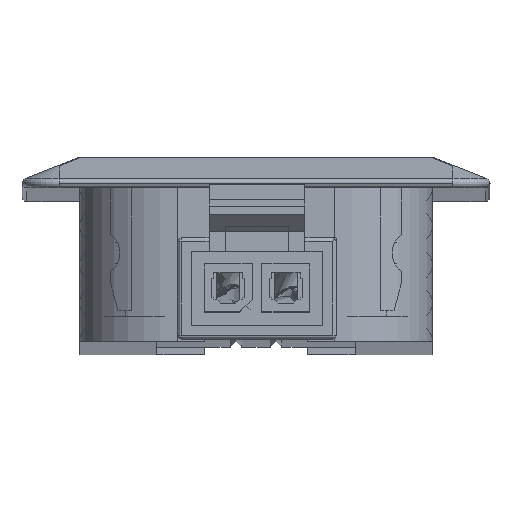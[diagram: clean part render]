
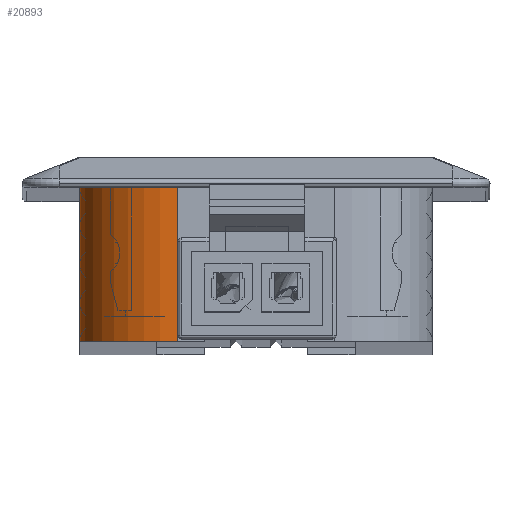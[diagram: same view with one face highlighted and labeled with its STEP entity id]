
A CAD part, top view. The second image highlights one B-rep face of the part: STEP entity #20893.
In plain terms, the highlighted cylindrical face has radius 5.1 mm (diameter 10.2 mm), a partial arc.
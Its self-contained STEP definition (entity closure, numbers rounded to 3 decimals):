
#297 = EDGE_CURVE ( 'NONE', #13143, #15528, #23055, .T. ) ;
#1264 = DIRECTION ( 'NONE',  ( -1., 0., 0. ) ) ;
#1367 = AXIS2_PLACEMENT_3D ( 'NONE', #3164, #7272, #3673 ) ;
#2518 = ORIENTED_EDGE ( 'NONE', *, *, #23146, .F. ) ;
#3164 = CARTESIAN_POINT ( 'NONE',  ( -43.337, 13.459, 400.585 ) ) ;
#3248 = CARTESIAN_POINT ( 'NONE',  ( -48.437, 5.659, 400.585 ) ) ;
#3673 = DIRECTION ( 'NONE',  ( -1., 0., 0. ) ) ;
#3951 = ORIENTED_EDGE ( 'NONE', *, *, #297, .T. ) ;
#4845 = CARTESIAN_POINT ( 'NONE',  ( -43.337, 5.659, 400.585 ) ) ;
#4902 = CYLINDRICAL_SURFACE ( 'NONE', #1367, 5.1 ) ;
#4954 = AXIS2_PLACEMENT_3D ( 'NONE', #20980, #5861, #13261 ) ;
#5321 = LINE ( 'NONE', #13970, #9723 ) ;
#5441 = DIRECTION ( 'NONE',  ( 0., 1., 0. ) ) ;
#5861 = DIRECTION ( 'NONE',  ( 0., 1., 0. ) ) ;
#7272 = DIRECTION ( 'NONE',  ( 0., -1., 0. ) ) ;
#7646 = CIRCLE ( 'NONE', #17061, 5.1 ) ;
#8672 = CARTESIAN_POINT ( 'NONE',  ( -43.337, 5.659, 405.685 ) ) ;
#9723 = VECTOR ( 'NONE', #5441, 1000. ) ;
#10298 = DIRECTION ( 'NONE',  ( 0., -1., 0. ) ) ;
#11292 = ORIENTED_EDGE ( 'NONE', *, *, #20380, .F. ) ;
#13143 = VERTEX_POINT ( 'NONE', #8672 ) ;
#13261 = DIRECTION ( 'NONE',  ( -1., 0., 0. ) ) ;
#13970 = CARTESIAN_POINT ( 'NONE',  ( -48.437, 13.459, 400.585 ) ) ;
#15528 = VERTEX_POINT ( 'NONE', #18689 ) ;
#15578 = VECTOR ( 'NONE', #20437, 1000. ) ;
#16621 = VERTEX_POINT ( 'NONE', #19672 ) ;
#17061 = AXIS2_PLACEMENT_3D ( 'NONE', #4845, #10298, #1264 ) ;
#17586 = FACE_OUTER_BOUND ( 'NONE', #17776, .T. ) ;
#17776 = EDGE_LOOP ( 'NONE', ( #2518, #11292, #3951, #22654 ) ) ;
#18689 = CARTESIAN_POINT ( 'NONE',  ( -43.337, 13.659, 405.685 ) ) ;
#19672 = CARTESIAN_POINT ( 'NONE',  ( -48.437, 13.659, 400.585 ) ) ;
#20380 = EDGE_CURVE ( 'NONE', #13143, #23852, #7646, .T. ) ;
#20437 = DIRECTION ( 'NONE',  ( 0., 1., 0. ) ) ;
#20893 = ADVANCED_FACE ( 'NONE', ( #17586 ), #4902, .T. ) ;
#20980 = CARTESIAN_POINT ( 'NONE',  ( -43.337, 13.659, 400.585 ) ) ;
#21471 = CIRCLE ( 'NONE', #4954, 5.1 ) ;
#22324 = EDGE_CURVE ( 'NONE', #16621, #15528, #21471, .T. ) ;
#22654 = ORIENTED_EDGE ( 'NONE', *, *, #22324, .F. ) ;
#23055 = LINE ( 'NONE', #24163, #15578 ) ;
#23146 = EDGE_CURVE ( 'NONE', #23852, #16621, #5321, .T. ) ;
#23852 = VERTEX_POINT ( 'NONE', #3248 ) ;
#24163 = CARTESIAN_POINT ( 'NONE',  ( -43.337, 13.459, 405.685 ) ) ;
